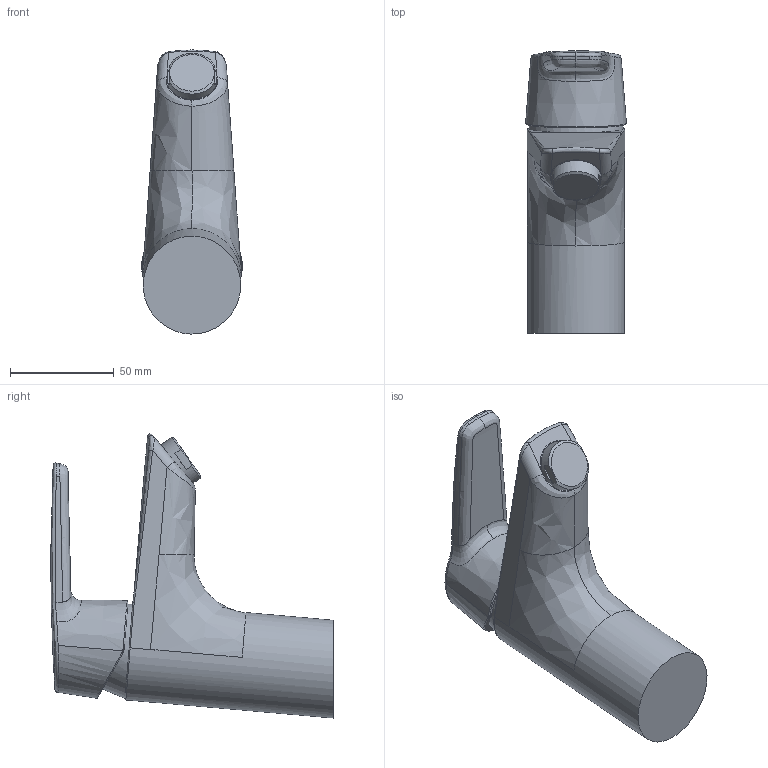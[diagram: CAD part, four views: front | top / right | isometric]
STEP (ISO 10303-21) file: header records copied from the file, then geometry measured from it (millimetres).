
FILE_DESCRIPTION (( 'STEP AP203' ), '1' );
FILE_NAME ('3910(2016)+3910F(2016)+3910K(2016)+3910F-E(2016)+51422293+5140229300676+51412293+514222930037.STEP', '2017-03-09T05:50:40', ( '' ), ( '' ), 'SwSTEP 2.0', 'SolidWorks 2016', '' );
FILE_SCHEMA (( 'CONFIG_CONTROL_DESIGN' ));
Length unit declared in the file: millimetre
Products named in the file (1): 3910(2016)+3910F(2016)+3910K(2016)+3910F-E(2016)+51422293+5140229300676+51412293+514222930037
Bounding box: 48.62 x 136.35 x 137.08 mm (x, y, z)
Volume: 325146.9 mm3; surface area: 36690.2 mm2
Topology: 1 solids, 1 shells, 65 faces, 188 edges, 127 vertices
Faces by surface type: bspline 45, plane 12, cylinder 6, cone 2
Full cylindrical faces by diameter (mm): 24 x1, 47.015 x1
Entity records: 14244 total; most frequent: CARTESIAN_POINT 12905, ORIENTED_EDGE 360, EDGE_CURVE 180, B_SPLINE_CURVE_WITH_KNOTS 132, VERTEX_POINT 123, DIRECTION 109, EDGE_LOOP 71, FACE_OUTER_BOUND 68
